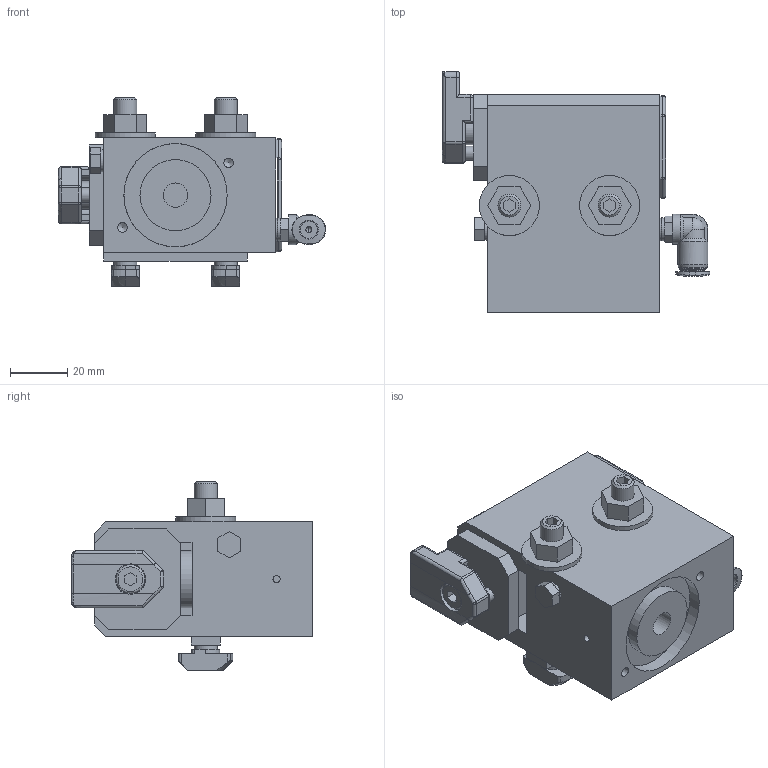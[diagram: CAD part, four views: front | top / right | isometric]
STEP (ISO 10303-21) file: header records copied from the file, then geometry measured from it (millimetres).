
FILE_DESCRIPTION (( 'STEP AP203' ), '1' );
FILE_NAME ('ASMHS-60-EW-08-100.STEP', '2017-01-31T11:36:53', ( '' ), ( '' ), 'SwSTEP 2.0', 'SolidWorks 2015', '' );
FILE_SCHEMA (( 'CONFIG_CONTROL_DESIGN' ));
Length unit declared in the file: metre
Products named in the file (1): ASMHS-60-EW-08-100
Bounding box: 93.3 x 84 x 65.8 mm (x, y, z)
Volume: 187190.4 mm3; surface area: 48464.8 mm2
Topology: 3 solids, 3 shells, 780 faces, 2017 edges, 1297 vertices
Faces by surface type: plane 381, cylinder 238, bspline 98, cone 34, sphere 20, torus 9
Full cylindrical faces by diameter (mm): 0.02 x2, 1 x3, 2.1 x2, 2.5 x1, 3.3 x2, 4.2 x1, 5 x2, 5.3 x1, 5.5 x1, 6 x1, 7.8 x2, 8 x6, 8.2 x4, 8.4 x1, 8.5 x1, 9.45 x1, 10 x2, 10.2 x6, 10.5 x2, 10.6 x1, 20 x1, 21 x2, 24.8 x1, 36 x1, 36.05 x1
Entity records: 29286 total; most frequent: CARTESIAN_POINT 11040, ORIENTED_EDGE 3830, DIRECTION 3495, EDGE_CURVE 1915, VERTEX_POINT 1276, AXIS2_PLACEMENT_3D 1173, VECTOR 1149, LINE 1149
